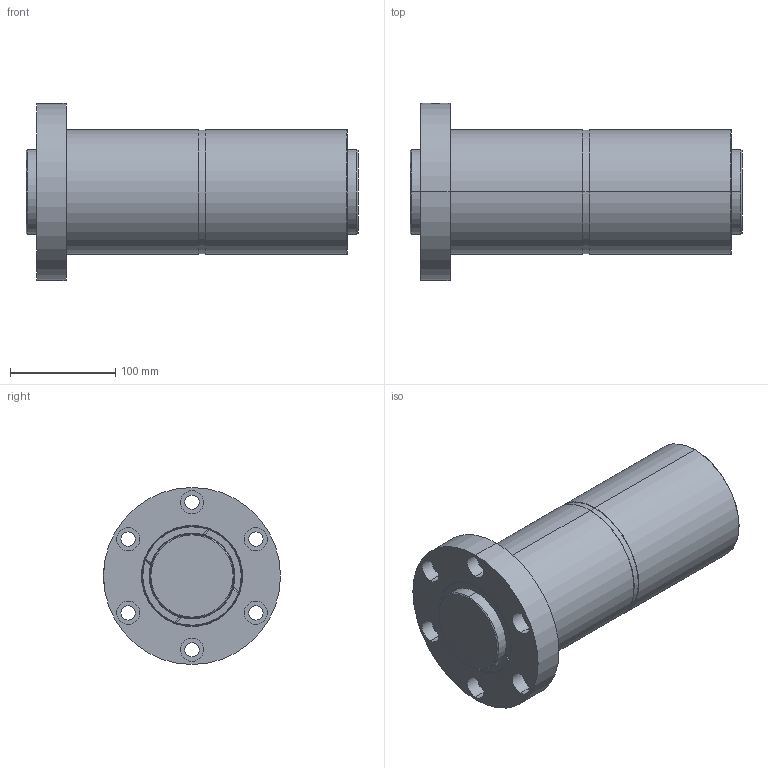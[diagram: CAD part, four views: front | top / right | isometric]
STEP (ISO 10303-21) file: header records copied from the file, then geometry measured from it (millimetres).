
FILE_DESCRIPTION (( 'STEP AP203' ), '1' );
FILE_NAME ('DFZR08020T4N-C.STEP', '2020-06-18T01:27:46', ( '' ), ( '' ), 'SwSTEP 2.0', 'SolidWorks 2013', '' );
FILE_SCHEMA (( 'CONFIG_CONTROL_DESIGN' ));
Length unit declared in the file: millimetre
Products named in the file (1): DFZR08020T4N-C
Bounding box: 315 x 168 x 168 mm (x, y, z)
Volume: 3404388.1 mm3; surface area: 331932.1 mm2
Topology: 2 solids, 3 shells, 132 faces, 306 edges, 196 vertices
Faces by surface type: cylinder 76, plane 30, torus 22, cone 4
Entity records: 4269 total; most frequent: CARTESIAN_POINT 1069, DIRECTION 706, ORIENTED_EDGE 612, AXIS2_PLACEMENT_3D 313, EDGE_CURVE 306, VERTEX_POINT 196, CIRCLE 180, EDGE_LOOP 166
